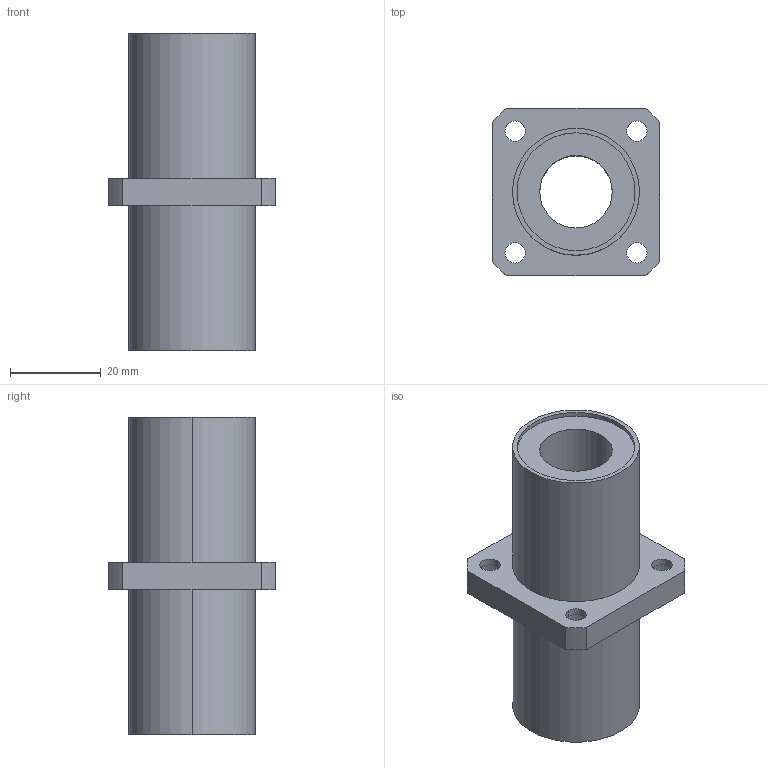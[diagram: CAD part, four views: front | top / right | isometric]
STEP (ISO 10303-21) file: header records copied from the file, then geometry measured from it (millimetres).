
FILE_DESCRIPTION((''),'2;1');
FILE_NAME('C:\Documents and Settings\ｿﾀﾀ蠑ｷ1\ｹﾙﾅﾁ ﾈｭｸ饅\ｺﾎﾇｰﾆﾄﾀﾏ\ﾁｦﾇｰ\LMKM__UU\LMKM16UU.stp','2005-06-15T13:26:25',('ｿﾀﾀ蠑ｷ1'),(''),'Autodesk Inventor 9','Autodesk Inventor 9','');
FILE_SCHEMA(('AUTOMOTIVE_DESIGN { 1 0 10303 214 1 1 1 1 }'));
Length unit declared in the file: millimetre
Products named in the file (1): LMKM__
Bounding box: 37 x 37 x 70 mm (x, y, z)
Volume: 31785.7 mm3; surface area: 12757 mm2
Topology: 1 solids, 1 shells, 44 faces, 102 edges, 68 vertices
Faces by surface type: cylinder 30, plane 14
Entity records: 1329 total; most frequent: DIRECTION 252, CARTESIAN_POINT 215, ORIENTED_EDGE 204, AXIS2_PLACEMENT_3D 105, EDGE_CURVE 102, VERTEX_POINT 68, EDGE_LOOP 62, CIRCLE 60
